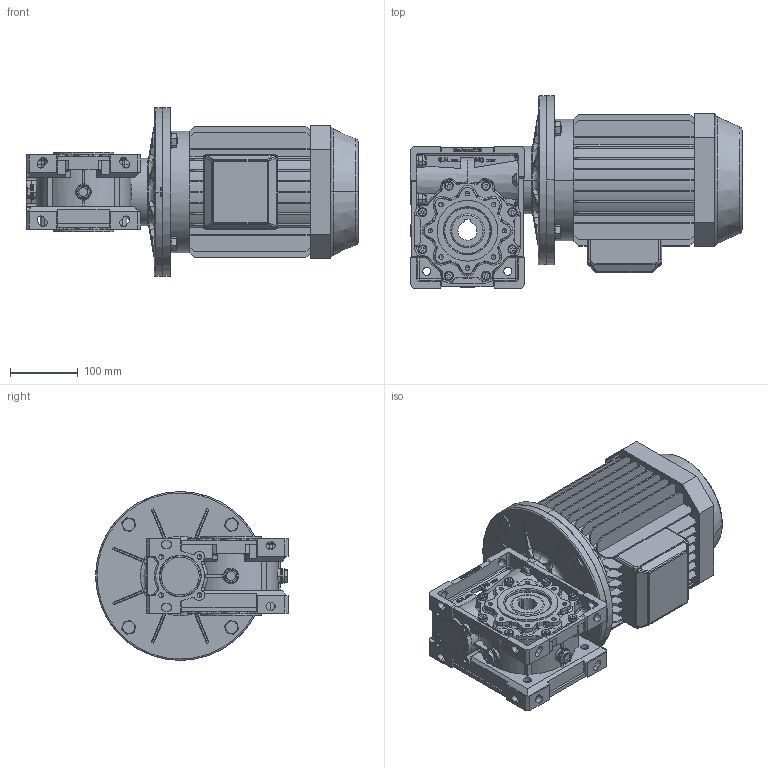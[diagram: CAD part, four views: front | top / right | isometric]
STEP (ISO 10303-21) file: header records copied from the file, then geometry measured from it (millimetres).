
FILE_DESCRIPTION((''),'2;1');
FILE_NAME('D:\_Assiemi MV\_File Sito\75\STP\MV75_B5-100.stp','2005-07-25T17:26:30',('tech2'),(''),'Autodesk Inventor 9','Autodesk Inventor 9','');
FILE_SCHEMA(('AUTOMOTIVE_DESIGN { 1 0 10303 214 1 1 1 1 }'));
Length unit declared in the file: millimetre
Products named in the file (16): MV75_B5-100; 4007501-A0; 4007504-A0; TCCE-8X16-ribassata; 4007508-A0; UNI-ISO 6194-1 (4) Tipo4 50 x  68 x  8; Capp-62-7; Guarnizione-tappo-3-8-gas; Tappo-3-8-gas-nero; Paraolio-40-68-7; motori B5 100; FM-63-75-D=250; UNI 5739  (Filetto regolare) M12 x 30; UNI 5589  (Filetto regolare) M12; UNI 8836 13 x 24
Assembly tree (36 placements, depth 3):
  MV75_B5-100
    4007501-A0
    4007504-A0
    TCCE-8X16-ribassata  x8
    4007508-A0
    UNI-ISO 6194-1 (4) Tipo4 50 x  68 x  8  x2
    Capp-62-7
    Guarnizione-tappo-3-8-gas  x3
    Tappo-3-8-gas-nero  x3
    Paraolio-40-68-7
    motori B5 100
    FM-63-75-D=250
      FM-63-75-D=250
      UNI 5739  (Filetto regolare) M12 x 30  x4
      UNI 5589  (Filetto regolare) M12  x4
      UNI 8836 13 x 24  x4
Bounding box: 491.5 x 285 x 250 mm (x, y, z)
Volume: 10494086.3 mm3; surface area: 1168208.8 mm2
Topology: 35 solids, 37 shells, 4309 faces, 11276 edges, 7174 vertices
Faces by surface type: plane 1666, cylinder 1302, bspline 1037, cone 214, torus 86, sphere 4
Entity records: 146429 total; most frequent: CARTESIAN_POINT 53935, ORIENTED_EDGE 20208, DIRECTION 18098, EDGE_CURVE 10104, VERTEX_POINT 6540, AXIS2_PLACEMENT_3D 6367, VECTOR 5364, LINE 5364
